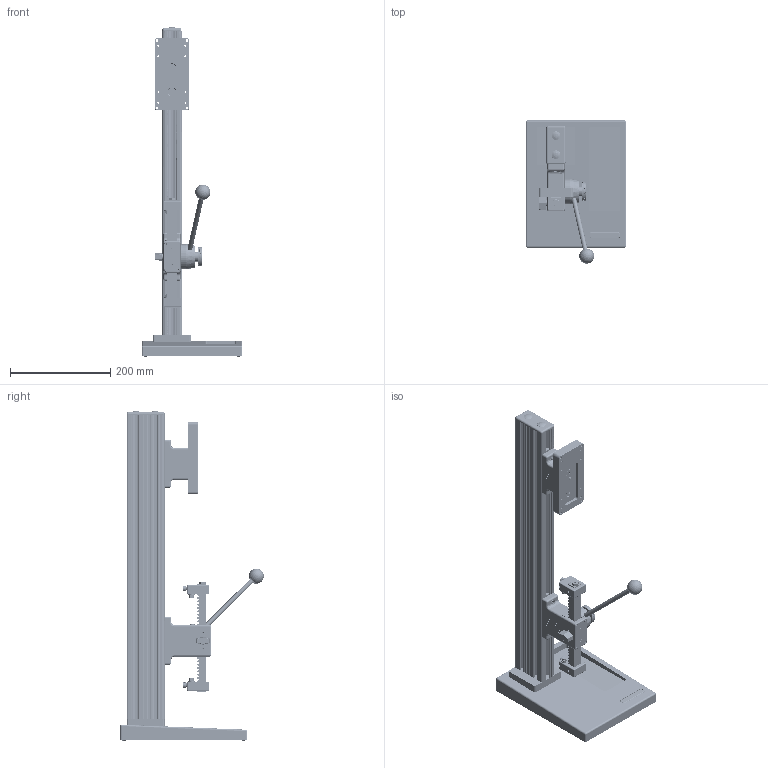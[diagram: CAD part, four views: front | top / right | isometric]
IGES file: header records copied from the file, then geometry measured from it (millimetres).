
Global section: file name: No Iges File Name specified; native system: Autodesk Inventor 2010; preprocessor: AutoDesk Inventor Iges Exporter R2010; author: mlampen; date: 20170620.175046; units: inch
Bounding box: 200.66 x 286.5 x 658.57 mm (x, y, z)
Volume: 3474431.6 mm3; surface area: 665091.4 mm2
Topology: 15 solids, 21 shells, 7929 faces, 20851 edges, 12947 vertices
Faces by surface type: plane 4044, cylinder 2583, revolution 806, cone 241, bspline 158, sphere 65, torus 32
Full cylindrical faces by diameter (mm): 2.474 x60, 3.505 x36, 3.795 x41, 4.7 x48, 4.826 x5, 6.104 x60, 6.35 x30, 7.938 x18
